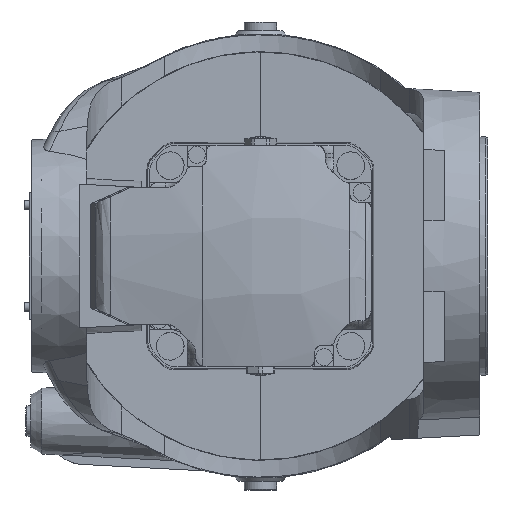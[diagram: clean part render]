
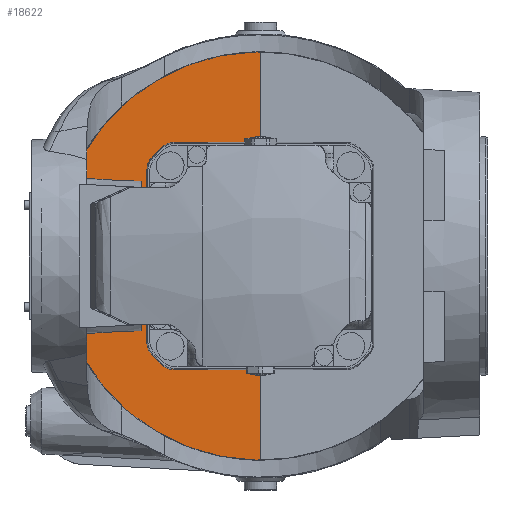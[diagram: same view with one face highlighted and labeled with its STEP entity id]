
A CAD part, left-side view. The second image highlights one B-rep face of the part: STEP entity #18622.
In plain terms, the highlighted planar face has unit normal (-1, -0.026, 0).
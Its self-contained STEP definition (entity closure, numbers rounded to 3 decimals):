
#17 = CARTESIAN_POINT ( 'NONE',  ( 1679.48, 65.613, 2468.686 ) ) ;
#545 = EDGE_CURVE ( 'NONE', #16264, #23537, #34660, .T. ) ;
#1257 = CARTESIAN_POINT ( 'NONE',  ( 1679.533, 63.578, 2583.351 ) ) ;
#2183 = ORIENTED_EDGE ( 'NONE', *, *, #2474, .T. ) ;
#2187 = CARTESIAN_POINT ( 'NONE',  ( 1679.451, 66.714, 2474.227 ) ) ;
#2474 = EDGE_CURVE ( 'NONE', #5532, #8351, #18069, .T. ) ;
#2976 = LINE ( 'NONE', #24339, #13696 ) ;
#3328 = DIRECTION ( 'NONE',  ( 0.019, -0.707, 0.707 ) ) ;
#4007 = VECTOR ( 'NONE', #17267, 1000. ) ;
#4078 = CARTESIAN_POINT ( 'NONE',  ( 1674.901, 240.45, 2404.775 ) ) ;
#4577 = CARTESIAN_POINT ( 'NONE',  ( 1681.198, 0., 2645.31 ) ) ;
#5231 = VERTEX_POINT ( 'NONE', #15020 ) ;
#5466 = CARTESIAN_POINT ( 'NONE',  ( 1679.451, 66.714, 2471.347 ) ) ;
#5524 = EDGE_CURVE ( 'NONE', #5231, #7680, #30372, .T. ) ;
#5532 = VERTEX_POINT ( 'NONE', #25090 ) ;
#5554 =( BOUNDED_CURVE ( )  B_SPLINE_CURVE ( 3, ( #16676, #32950, #24153, #11384 ),
 .UNSPECIFIED., .F., .T. ) 
 B_SPLINE_CURVE_WITH_KNOTS ( ( 4, 4 ),
 ( 1.572, 2.357 ),
 .UNSPECIFIED. ) 
 CURVE ( )  GEOMETRIC_REPRESENTATION_ITEM ( )  RATIONAL_B_SPLINE_CURVE ( ( 1., 0.949, 0.949, 1. ) ) 
 REPRESENTATION_ITEM ( '' )  );
#5991 = LINE ( 'NONE', #27336, #11660 ) ;
#6327 = CARTESIAN_POINT ( 'NONE',  ( 1679.48, 65.613, 2581.314 ) ) ;
#6379 = CARTESIAN_POINT ( 'NONE',  ( 1681.196, 0.061, 2458.225 ) ) ;
#6522 = DIRECTION ( 'NONE',  ( 0.026, -1., 0.001 ) ) ;
#6842 = ORIENTED_EDGE ( 'NONE', *, *, #9329, .T. ) ;
#7680 = VERTEX_POINT ( 'NONE', #24482 ) ;
#8313 = ORIENTED_EDGE ( 'NONE', *, *, #5524, .T. ) ;
#8351 = VERTEX_POINT ( 'NONE', #22195 ) ;
#8786 = CARTESIAN_POINT ( 'NONE',  ( 1681.198, 0., 2525. ) ) ;
#9329 = EDGE_CURVE ( 'NONE', #22693, #5532, #2976, .T. ) ;
#9954 = VERTEX_POINT ( 'NONE', #2187 ) ;
#10193 = VERTEX_POINT ( 'NONE', #20549 ) ;
#10483 = EDGE_CURVE ( 'NONE', #9954, #21024, #19373, .T. ) ;
#10979 = VERTEX_POINT ( 'NONE', #14866 ) ;
#11314 = CARTESIAN_POINT ( 'NONE',  ( 1679.868, 50.773, 2591.729 ) ) ;
#11384 = CARTESIAN_POINT ( 'NONE',  ( 1679.67, 58.355, 2461.418 ) ) ;
#11471 = CARTESIAN_POINT ( 'NONE',  ( 1679.451, 66.714, 2525. ) ) ;
#11660 = VECTOR ( 'NONE', #6522, 1000. ) ;
#11790 = CARTESIAN_POINT ( 'NONE',  ( 1674.901, 240.45, 2645.225 ) ) ;
#12397 = EDGE_CURVE ( 'NONE', #27823, #10193, #21050, .T. ) ;
#13310 = ORIENTED_EDGE ( 'NONE', *, *, #17088, .T. ) ;
#13696 = VECTOR ( 'NONE', #3328, 1000. ) ;
#13857 =( BOUNDED_CURVE ( )  B_SPLINE_CURVE ( 3, ( #24009, #17, #5466, #21772 ),
 .UNSPECIFIED., .F., .T. ) 
 B_SPLINE_CURVE_WITH_KNOTS ( ( 4, 4 ),
 ( 2.357, 3.142 ),
 .UNSPECIFIED. ) 
 CURVE ( )  GEOMETRIC_REPRESENTATION_ITEM ( )  RATIONAL_B_SPLINE_CURVE ( ( 1., 0.949, 0.949, 1. ) ) 
 REPRESENTATION_ITEM ( '' )  );
#14459 = VECTOR ( 'NONE', #30032, 1000. ) ;
#14866 = CARTESIAN_POINT ( 'NONE',  ( 1681.198, 0., 2591.775 ) ) ;
#15020 = CARTESIAN_POINT ( 'NONE',  ( 1681.198, 0., 2458.225 ) ) ;
#15473 = EDGE_CURVE ( 'NONE', #21024, #22693, #25673, .T. ) ;
#15769 = ORIENTED_EDGE ( 'NONE', *, *, #25665, .T. ) ;
#15946 = ORIENTED_EDGE ( 'NONE', *, *, #10483, .T. ) ;
#16264 = VERTEX_POINT ( 'NONE', #4577 ) ;
#16611 = CARTESIAN_POINT ( 'NONE',  ( 1679.793, 53.656, 2591.726 ) ) ;
#16676 = CARTESIAN_POINT ( 'NONE',  ( 1679.868, 50.773, 2458.271 ) ) ;
#16960 = CARTESIAN_POINT ( 'NONE',  ( 1681.198, 0., 2404.69 ) ) ;
#17088 = EDGE_CURVE ( 'NONE', #23537, #5231, #18962, .T. ) ;
#17267 = DIRECTION ( 'NONE',  ( -0.026, 1., 0.001 ) ) ;
#17804 = DIRECTION ( 'NONE',  ( 0.026, -1., 0. ) ) ;
#18069 =( BOUNDED_CURVE ( )  B_SPLINE_CURVE ( 3, ( #21341, #21857, #16611, #11314 ),
 .UNSPECIFIED., .F., .F. ) 
 B_SPLINE_CURVE_WITH_KNOTS ( ( 4, 4 ),
 ( 3.926, 4.711 ),
 .UNSPECIFIED. ) 
 CURVE ( )  GEOMETRIC_REPRESENTATION_ITEM ( )  RATIONAL_B_SPLINE_CURVE ( ( 1., 0.949, 0.949, 1. ) ) 
 REPRESENTATION_ITEM ( '' )  );
#18622 = ADVANCED_FACE ( 'NONE', ( #30740 ), #20756, .T. ) ;
#18962 = LINE ( 'NONE', #8786, #27518 ) ;
#18969 = CARTESIAN_POINT ( 'NONE',  ( 1681.198, 0., 2525. ) ) ;
#19220 = ORIENTED_EDGE ( 'NONE', *, *, #545, .T. ) ;
#19373 = LINE ( 'NONE', #11471, #14459 ) ;
#19487 = CARTESIAN_POINT ( 'NONE',  ( 1679.533, 63.578, 2583.351 ) ) ;
#20212 = CARTESIAN_POINT ( 'NONE',  ( 1681.198, 0., 2404.69 ) ) ;
#20549 = CARTESIAN_POINT ( 'NONE',  ( 1679.533, 63.578, 2466.649 ) ) ;
#20756 = PLANE ( 'NONE',  #26377 ) ;
#21024 = VERTEX_POINT ( 'NONE', #27446 ) ;
#21050 = LINE ( 'NONE', #26237, #32811 ) ;
#21341 = CARTESIAN_POINT ( 'NONE',  ( 1679.67, 58.355, 2588.582 ) ) ;
#21508 = ORIENTED_EDGE ( 'NONE', *, *, #23117, .T. ) ;
#21772 = CARTESIAN_POINT ( 'NONE',  ( 1679.451, 66.714, 2474.227 ) ) ;
#21857 = CARTESIAN_POINT ( 'NONE',  ( 1679.723, 56.318, 2590.621 ) ) ;
#22168 = EDGE_LOOP ( 'NONE', ( #21508, #28678, #19220, #13310, #8313, #15769, #22940, #28751, #15946, #29884, #6842, #2183 ) ) ;
#22195 = CARTESIAN_POINT ( 'NONE',  ( 1679.868, 50.773, 2591.729 ) ) ;
#22693 = VERTEX_POINT ( 'NONE', #19487 ) ;
#22940 = ORIENTED_EDGE ( 'NONE', *, *, #12397, .T. ) ;
#23117 = EDGE_CURVE ( 'NONE', #8351, #10979, #5991, .T. ) ;
#23537 = VERTEX_POINT ( 'NONE', #16960 ) ;
#23848 = LINE ( 'NONE', #18969, #32673 ) ;
#24009 = CARTESIAN_POINT ( 'NONE',  ( 1679.533, 63.578, 2466.649 ) ) ;
#24153 = CARTESIAN_POINT ( 'NONE',  ( 1679.723, 56.318, 2459.379 ) ) ;
#24339 = CARTESIAN_POINT ( 'NONE',  ( 1679.601, 60.985, 2585.948 ) ) ;
#24482 = CARTESIAN_POINT ( 'NONE',  ( 1679.868, 50.773, 2458.271 ) ) ;
#25090 = CARTESIAN_POINT ( 'NONE',  ( 1679.67, 58.355, 2588.582 ) ) ;
#25207 = CARTESIAN_POINT ( 'NONE',  ( 1679.451, 66.714, 2578.653 ) ) ;
#25391 = EDGE_CURVE ( 'NONE', #10979, #16264, #23848, .T. ) ;
#25665 = EDGE_CURVE ( 'NONE', #7680, #27823, #5554, .T. ) ;
#25673 =( BOUNDED_CURVE ( )  B_SPLINE_CURVE ( 3, ( #32975, #25207, #6327, #1257 ),
 .UNSPECIFIED., .F., .F. ) 
 B_SPLINE_CURVE_WITH_KNOTS ( ( 4, 4 ),
 ( 3.142, 3.926 ),
 .UNSPECIFIED. ) 
 CURVE ( )  GEOMETRIC_REPRESENTATION_ITEM ( )  RATIONAL_B_SPLINE_CURVE ( ( 1., 0.949, 0.949, 1. ) ) 
 REPRESENTATION_ITEM ( '' )  );
#26237 = CARTESIAN_POINT ( 'NONE',  ( 1679.601, 60.985, 2464.052 ) ) ;
#26377 = AXIS2_PLACEMENT_3D ( 'NONE', #28106, #28306, #17804 ) ;
#26805 = DIRECTION ( 'NONE',  ( 0., 0., 1. ) ) ;
#27336 = CARTESIAN_POINT ( 'NONE',  ( 1681.196, 0.061, 2591.775 ) ) ;
#27446 = CARTESIAN_POINT ( 'NONE',  ( 1679.451, 66.714, 2575.773 ) ) ;
#27518 = VECTOR ( 'NONE', #32435, 1000. ) ;
#27823 = VERTEX_POINT ( 'NONE', #32851 ) ;
#28106 = CARTESIAN_POINT ( 'NONE',  ( 1681.198, 0., 2525. ) ) ;
#28306 = DIRECTION ( 'NONE',  ( -1., -0.026, 0. ) ) ;
#28678 = ORIENTED_EDGE ( 'NONE', *, *, #25391, .T. ) ;
#28751 = ORIENTED_EDGE ( 'NONE', *, *, #34496, .T. ) ;
#29884 = ORIENTED_EDGE ( 'NONE', *, *, #15473, .T. ) ;
#30032 = DIRECTION ( 'NONE',  ( 0., 0., 1. ) ) ;
#30372 = LINE ( 'NONE', #6379, #4007 ) ;
#30740 = FACE_OUTER_BOUND ( 'NONE', #22168, .T. ) ;
#31707 = CARTESIAN_POINT ( 'NONE',  ( 1681.198, 0., 2645.31 ) ) ;
#32435 = DIRECTION ( 'NONE',  ( 0., 0., 1. ) ) ;
#32673 = VECTOR ( 'NONE', #26805, 1000. ) ;
#32811 = VECTOR ( 'NONE', #33854, 1000. ) ;
#32851 = CARTESIAN_POINT ( 'NONE',  ( 1679.67, 58.355, 2461.418 ) ) ;
#32950 = CARTESIAN_POINT ( 'NONE',  ( 1679.793, 53.656, 2458.274 ) ) ;
#32975 = CARTESIAN_POINT ( 'NONE',  ( 1679.451, 66.714, 2575.773 ) ) ;
#33854 = DIRECTION ( 'NONE',  ( -0.019, 0.707, 0.707 ) ) ;
#34496 = EDGE_CURVE ( 'NONE', #10193, #9954, #13857, .T. ) ;
#34660 =( BOUNDED_CURVE ( )  B_SPLINE_CURVE ( 3, ( #31707, #11790, #4078, #20212 ),
 .UNSPECIFIED., .F., .F. ) 
 B_SPLINE_CURVE_WITH_KNOTS ( ( 4, 4 ),
 ( 1.571, 4.712 ),
 .UNSPECIFIED. ) 
 CURVE ( )  GEOMETRIC_REPRESENTATION_ITEM ( )  RATIONAL_B_SPLINE_CURVE ( ( 1., 0.334, 0.334, 1. ) ) 
 REPRESENTATION_ITEM ( '' )  );
